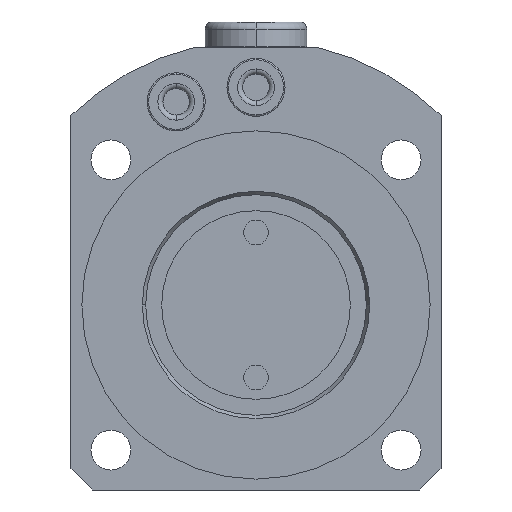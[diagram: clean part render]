
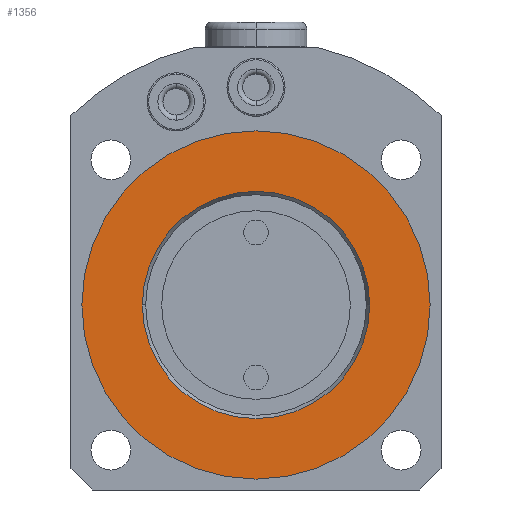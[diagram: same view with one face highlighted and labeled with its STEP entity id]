
A CAD part, front view. The second image highlights one B-rep face of the part: STEP entity #1356.
In plain terms, the highlighted planar face has unit normal (0, -1, 0).
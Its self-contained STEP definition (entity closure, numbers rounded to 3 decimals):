
#1020=PLANE('',#4409);
#1091=FACE_BOUND('',#1804,.T.);
#1092=FACE_BOUND('',#1805,.T.);
#1356=ADVANCED_FACE('',(#1091,#1092),#1020,.T.);
#1804=EDGE_LOOP('',(#2854,#2855));
#1805=EDGE_LOOP('',(#2856,#2857));
#2854=ORIENTED_EDGE('',*,*,#3680,.T.);
#2855=ORIENTED_EDGE('',*,*,#3773,.T.);
#2856=ORIENTED_EDGE('',*,*,#3674,.F.);
#2857=ORIENTED_EDGE('',*,*,#3774,.F.);
#3321=VERTEX_POINT('',#6298);
#3322=VERTEX_POINT('',#6299);
#3327=VERTEX_POINT('',#6310);
#3328=VERTEX_POINT('',#6312);
#3674=EDGE_CURVE('',#3321,#3322,#3989,.T.);
#3680=EDGE_CURVE('',#3328,#3327,#3992,.T.);
#3773=EDGE_CURVE('',#3327,#3328,#4037,.T.);
#3774=EDGE_CURVE('',#3322,#3321,#4038,.T.);
#3989=CIRCLE('',#4327,24.);
#3992=CIRCLE('',#4331,15.662);
#4037=CIRCLE('',#4406,15.662);
#4038=CIRCLE('',#4408,24.);
#4327=AXIS2_PLACEMENT_3D('',#6297,#5124,#5125);
#4331=AXIS2_PLACEMENT_3D('',#6311,#5135,#5136);
#4406=AXIS2_PLACEMENT_3D('',#6613,#5316,#5317);
#4408=AXIS2_PLACEMENT_3D('',#6615,#5320,#5321);
#4409=AXIS2_PLACEMENT_3D('',#6616,#5322,#5323);
#5124=DIRECTION('',(0.,1.,0.));
#5125=DIRECTION('',(-1.,0.,0.));
#5135=DIRECTION('',(0.,1.,0.));
#5136=DIRECTION('',(-1.,0.,0.));
#5316=DIRECTION('',(0.,1.,0.));
#5317=DIRECTION('',(-1.,0.,0.));
#5320=DIRECTION('',(0.,1.,0.));
#5321=DIRECTION('',(-1.,0.,0.));
#5322=DIRECTION('',(0.,-1.,0.));
#5323=DIRECTION('',(-1.,0.,0.));
#6297=CARTESIAN_POINT('',(0.,-64.,0.));
#6298=CARTESIAN_POINT('',(-24.,-64.,0.));
#6299=CARTESIAN_POINT('',(24.,-64.,0.));
#6310=CARTESIAN_POINT('',(-15.662,-64.,0.));
#6311=CARTESIAN_POINT('',(0.,-64.,0.));
#6312=CARTESIAN_POINT('',(15.662,-64.,0.));
#6613=CARTESIAN_POINT('',(0.,-64.,0.));
#6615=CARTESIAN_POINT('',(0.,-64.,0.));
#6616=CARTESIAN_POINT('',(-15.662,-64.,0.));
